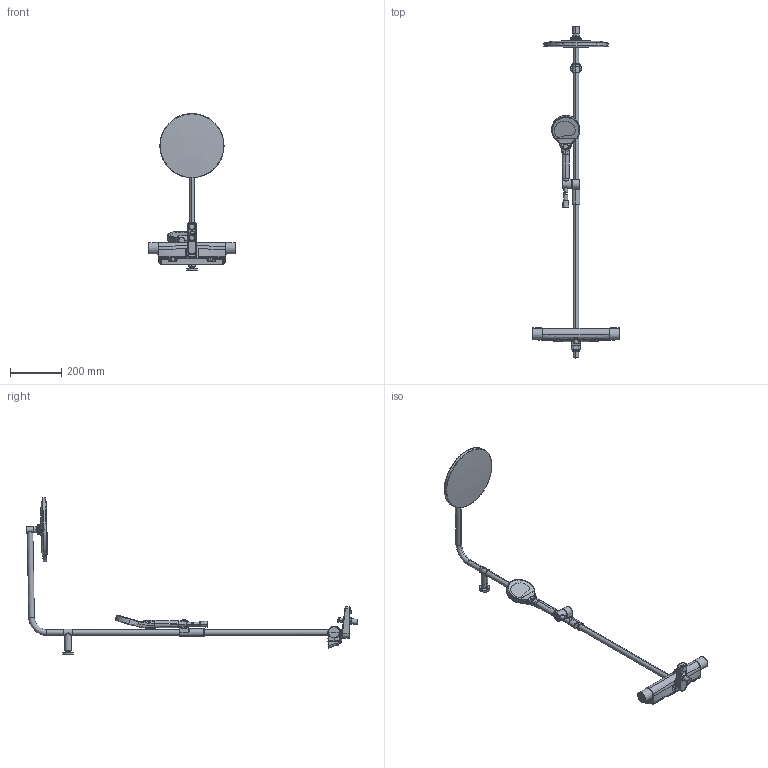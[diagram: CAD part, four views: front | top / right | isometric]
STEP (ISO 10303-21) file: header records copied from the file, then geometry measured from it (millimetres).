
FILE_DESCRIPTION (( 'STEP AP203' ), '1' );
FILE_NAME ('7193N(2023).STEP', '2025-06-16T05:41:09', ( '' ), ( '' ), 'SwSTEP 2.0', 'SolidWorks 2024', '' );
FILE_SCHEMA (( 'CONFIG_CONTROL_DESIGN' ));
Length unit declared in the file: millimetre
Products named in the file (1): 7193N(2023)
Bounding box: 342.65 x 1292.95 x 611.02 mm (x, y, z)
Volume: 3342171.8 mm3; surface area: 571816.3 mm2
Topology: 25 solids, 25 shells, 1119 faces, 2655 edges, 1553 vertices
Faces by surface type: bspline 638, cylinder 184, plane 132, cone 104, torus 47, sphere 14
Entity records: 77672 total; most frequent: CARTESIAN_POINT 57038, ORIENTED_EDGE 5212, DIRECTION 2893, EDGE_CURVE 2606, VERTEX_POINT 1554, B_SPLINE_CURVE_WITH_KNOTS 1332, AXIS2_PLACEMENT_3D 1243, EDGE_LOOP 1146
